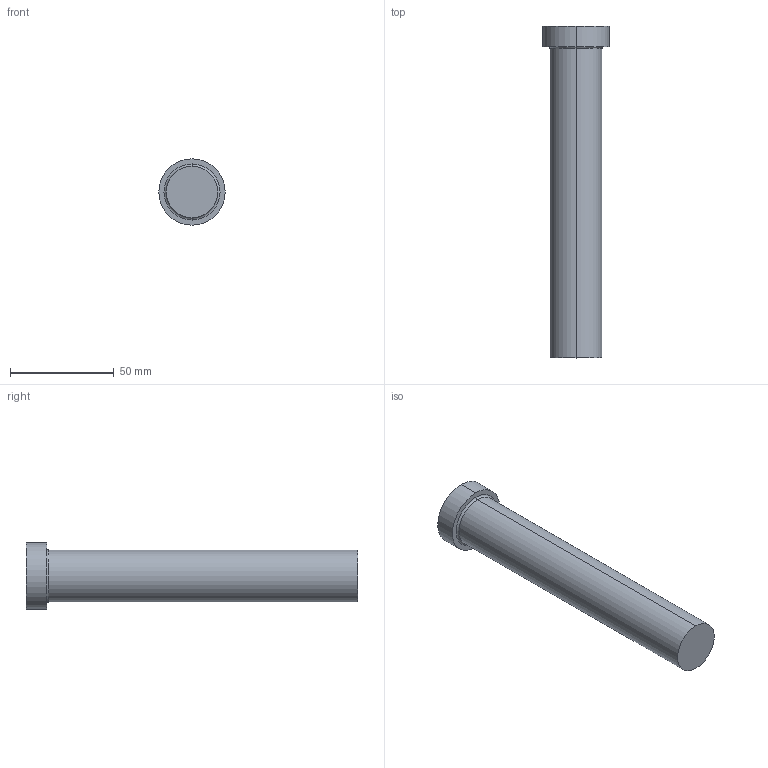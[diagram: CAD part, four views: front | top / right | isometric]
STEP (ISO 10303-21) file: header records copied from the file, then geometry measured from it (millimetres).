
FILE_DESCRIPTION (( 'STEP AP203' ), '1' );
FILE_NAME ('MC250-160.step', '2015-10-31T12:37:44', ( '' ), ( '' ), 'SwSTEP 2.0', 'SolidWorks 2009', '' );
FILE_SCHEMA (( 'CONFIG_CONTROL_DESIGN' ));
Length unit declared in the file: millimetre
Products named in the file (1): MC250-160
Bounding box: 32 x 160 x 32 mm (x, y, z)
Volume: 81690.7 mm3; surface area: 14361.5 mm2
Topology: 1 solids, 1 shells, 9 faces, 16 edges, 10 vertices
Faces by surface type: cylinder 4, plane 3, torus 2
Entity records: 303 total; most frequent: DIRECTION 48, CARTESIAN_POINT 36, ORIENTED_EDGE 32, AXIS2_PLACEMENT_3D 22, EDGE_CURVE 16, CIRCLE 12, VERTEX_POINT 10, EDGE_LOOP 10
